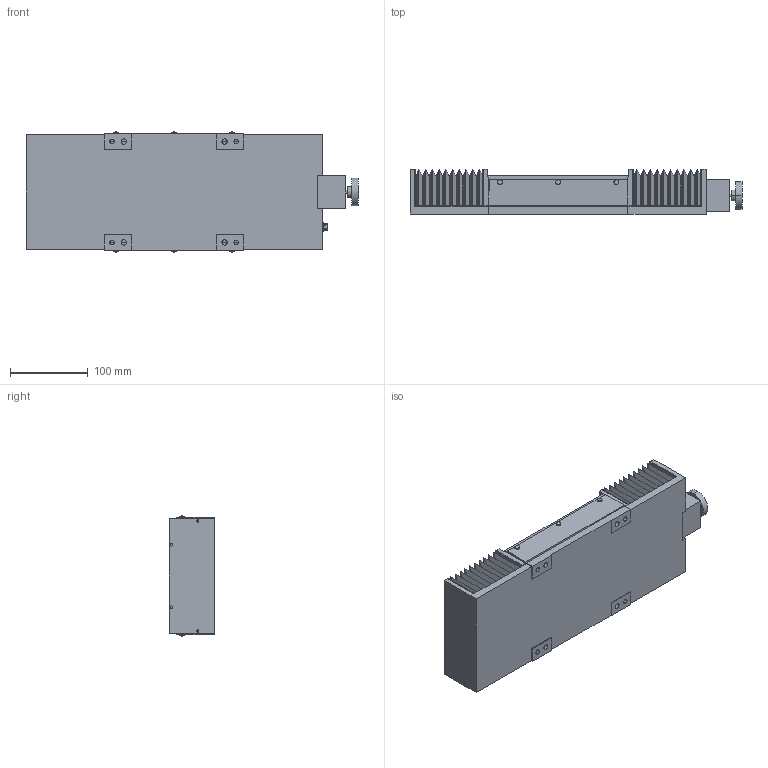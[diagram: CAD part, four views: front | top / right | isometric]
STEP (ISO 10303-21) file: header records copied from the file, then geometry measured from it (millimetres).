
FILE_DESCRIPTION (( 'STEP AP203' ), '1' );
FILE_NAME ('ALS-510-H1PB.STEP', '2008-03-07T08:30:03', ( '' ), ( '' ), 'SwSTEP 2.0', 'SolidWorks 2007', '' );
FILE_SCHEMA (( 'CONFIG_CONTROL_DESIGN' ));
Length unit declared in the file: millimetre
Products named in the file (5): ALS-510-H1PB-2_蹬怮椔; ALS-510-H1PB-4_蹬怮椔; ALS-510-H1PB-1_蹬怮椔; ALS-510-H1PB; ALS-510-H1PB-3_蹬怮椔
Assembly tree (4 placements, depth 2):
  ALS-510-H1PB
    ALS-510-H1PB-1_蹬怮椔
    ALS-510-H1PB-3_蹬怮椔
    ALS-510-H1PB-2_蹬怮椔
    ALS-510-H1PB-4_蹬怮椔
Bounding box: 428 x 59 x 155.65 mm (x, y, z)
Volume: 2104508.5 mm3; surface area: 459930.5 mm2
Topology: 4 solids, 5 shells, 650 faces, 1631 edges, 1056 vertices
Faces by surface type: plane 417, cylinder 203, cone 16, bspline 6, torus 4, sphere 4
Entity records: 21196 total; most frequent: CARTESIAN_POINT 4586, DIRECTION 3361, ORIENTED_EDGE 3262, EDGE_CURVE 1631, VECTOR 1179, LINE 1179, AXIS2_PLACEMENT_3D 1091, VERTEX_POINT 1056
